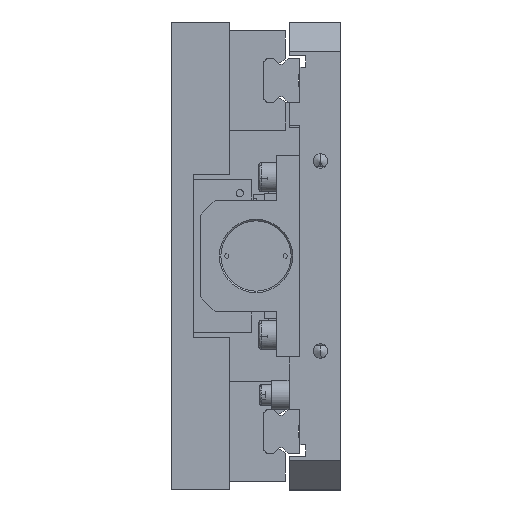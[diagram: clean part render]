
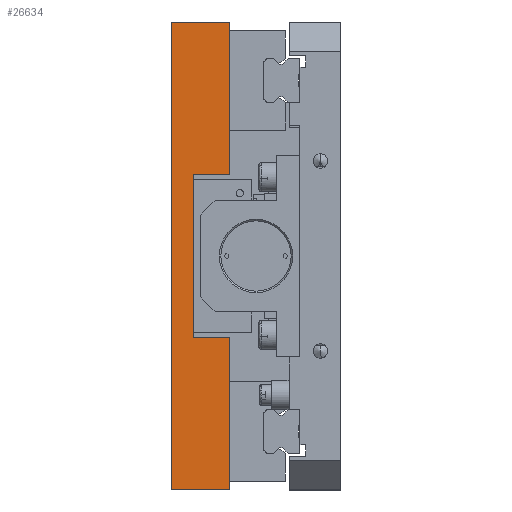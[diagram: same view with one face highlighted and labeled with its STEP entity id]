
A CAD part, left-side view. The second image highlights one B-rep face of the part: STEP entity #26634.
In plain terms, the highlighted planar face has unit normal (-1, 0, 0).
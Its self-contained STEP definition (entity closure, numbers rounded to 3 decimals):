
#1057 = CARTESIAN_POINT ( 'NONE',  ( -31.499, 58., 80. ) ) ;
#1271 = DIRECTION ( 'NONE',  ( 0., 1., 0. ) ) ;
#1334 = CARTESIAN_POINT ( 'NONE',  ( -31.499, 38., -80. ) ) ;
#1339 = CARTESIAN_POINT ( 'NONE',  ( -31.499, 58., -28. ) ) ;
#1342 = DIRECTION ( 'NONE',  ( 0., 0., -1. ) ) ;
#1345 = DIRECTION ( 'NONE',  ( 0., -1., 0. ) ) ;
#1359 = CARTESIAN_POINT ( 'NONE',  ( -31.499, 50.5, -80. ) ) ;
#1363 = CARTESIAN_POINT ( 'NONE',  ( -31.499, 58., -80. ) ) ;
#1366 = DIRECTION ( 'NONE',  ( 0., 0., -1. ) ) ;
#1368 = CARTESIAN_POINT ( 'NONE',  ( -31.499, 38., -80. ) ) ;
#1370 = DIRECTION ( 'NONE',  ( 0., 0., -1. ) ) ;
#1373 = CARTESIAN_POINT ( 'NONE',  ( -31.499, 58., 28. ) ) ;
#1374 = DIRECTION ( 'NONE',  ( 0., 1., 0. ) ) ;
#1380 = DIRECTION ( 'NONE',  ( 0., 1., 0. ) ) ;
#10363 = LINE ( 'NONE', #55278, #10367 ) ;
#10367 = VECTOR ( 'NONE', #55279, 1000. ) ;
#11835 = VERTEX_POINT ( 'NONE', #35706 ) ;
#11836 = VERTEX_POINT ( 'NONE', #35705 ) ;
#11838 = VERTEX_POINT ( 'NONE', #35703 ) ;
#11840 = VERTEX_POINT ( 'NONE', #35701 ) ;
#11864 = VERTEX_POINT ( 'NONE', #35676 ) ;
#11865 = VERTEX_POINT ( 'NONE', #35675 ) ;
#12164 = VERTEX_POINT ( 'NONE', #35337 ) ;
#12169 = VERTEX_POINT ( 'NONE', #35330 ) ;
#23662 = DIRECTION ( 'NONE',  ( 0., 0., -1. ) ) ;
#23668 = DIRECTION ( 'NONE',  ( 1., 0., 0. ) ) ;
#23685 = CARTESIAN_POINT ( 'NONE',  ( -31.499, 58., -80. ) ) ;
#23686 = PLANE ( 'NONE',  #54282 ) ;
#25834 = FACE_OUTER_BOUND ( 'NONE', #58286, .T. ) ;
#26634 = ADVANCED_FACE ( 'NONE', ( #25834 ), #23686, .F. ) ;
#35330 = CARTESIAN_POINT ( 'NONE',  ( -31.499, 58., -80. ) ) ;
#35337 = CARTESIAN_POINT ( 'NONE',  ( -31.499, 58., 80. ) ) ;
#35675 = CARTESIAN_POINT ( 'NONE',  ( -31.499, 38., -28. ) ) ;
#35676 = CARTESIAN_POINT ( 'NONE',  ( -31.499, 50.5, -28. ) ) ;
#35701 = CARTESIAN_POINT ( 'NONE',  ( -31.499, 38., 80. ) ) ;
#35703 = CARTESIAN_POINT ( 'NONE',  ( -31.499, 50.5, 28. ) ) ;
#35705 = CARTESIAN_POINT ( 'NONE',  ( -31.499, 38., 28. ) ) ;
#35706 = CARTESIAN_POINT ( 'NONE',  ( -31.499, 38., -80. ) ) ;
#46859 = ORIENTED_EDGE ( 'NONE', *, *, #51388, .F. ) ;
#46864 = ORIENTED_EDGE ( 'NONE', *, *, #51391, .F. ) ;
#46868 = ORIENTED_EDGE ( 'NONE', *, *, #51384, .F. ) ;
#46870 = ORIENTED_EDGE ( 'NONE', *, *, #51383, .F. ) ;
#46872 = ORIENTED_EDGE ( 'NONE', *, *, #53703, .F. ) ;
#46873 = ORIENTED_EDGE ( 'NONE', *, *, #51371, .T. ) ;
#46877 = ORIENTED_EDGE ( 'NONE', *, *, #51389, .F. ) ;
#46879 = ORIENTED_EDGE ( 'NONE', *, *, #51390, .F. ) ;
#51371 = EDGE_CURVE ( 'NONE', #11840, #12164, #60122, .T. ) ;
#51383 = EDGE_CURVE ( 'NONE', #11865, #11835, #60083, .T. ) ;
#51384 = EDGE_CURVE ( 'NONE', #11864, #11865, #60086, .T. ) ;
#51388 = EDGE_CURVE ( 'NONE', #11838, #11864, #60137, .T. ) ;
#51389 = EDGE_CURVE ( 'NONE', #11840, #11836, #60147, .T. ) ;
#51390 = EDGE_CURVE ( 'NONE', #11836, #11838, #60149, .T. ) ;
#51391 = EDGE_CURVE ( 'NONE', #11835, #12169, #60139, .T. ) ;
#53703 = EDGE_CURVE ( 'NONE', #12169, #12164, #10363, .T. ) ;
#54282 = AXIS2_PLACEMENT_3D ( 'NONE', #23685, #23668, #23662 ) ;
#55278 = CARTESIAN_POINT ( 'NONE',  ( -31.499, 58., 80. ) ) ;
#55279 = DIRECTION ( 'NONE',  ( 0., 0., 1. ) ) ;
#58286 = EDGE_LOOP ( 'NONE', ( #46879, #46877, #46873, #46872, #46864, #46870, #46868, #46859 ) ) ;
#60083 = LINE ( 'NONE', #1334, #60136 ) ;
#60086 = LINE ( 'NONE', #1339, #60138 ) ;
#60088 = VECTOR ( 'NONE', #1271, 1000. ) ;
#60122 = LINE ( 'NONE', #1057, #60088 ) ;
#60136 = VECTOR ( 'NONE', #1342, 1000. ) ;
#60137 = LINE ( 'NONE', #1359, #60145 ) ;
#60138 = VECTOR ( 'NONE', #1345, 1000. ) ;
#60139 = LINE ( 'NONE', #1363, #60151 ) ;
#60145 = VECTOR ( 'NONE', #1366, 1000. ) ;
#60147 = LINE ( 'NONE', #1368, #60148 ) ;
#60148 = VECTOR ( 'NONE', #1370, 1000. ) ;
#60149 = LINE ( 'NONE', #1373, #60150 ) ;
#60150 = VECTOR ( 'NONE', #1374, 1000. ) ;
#60151 = VECTOR ( 'NONE', #1380, 1000. ) ;
